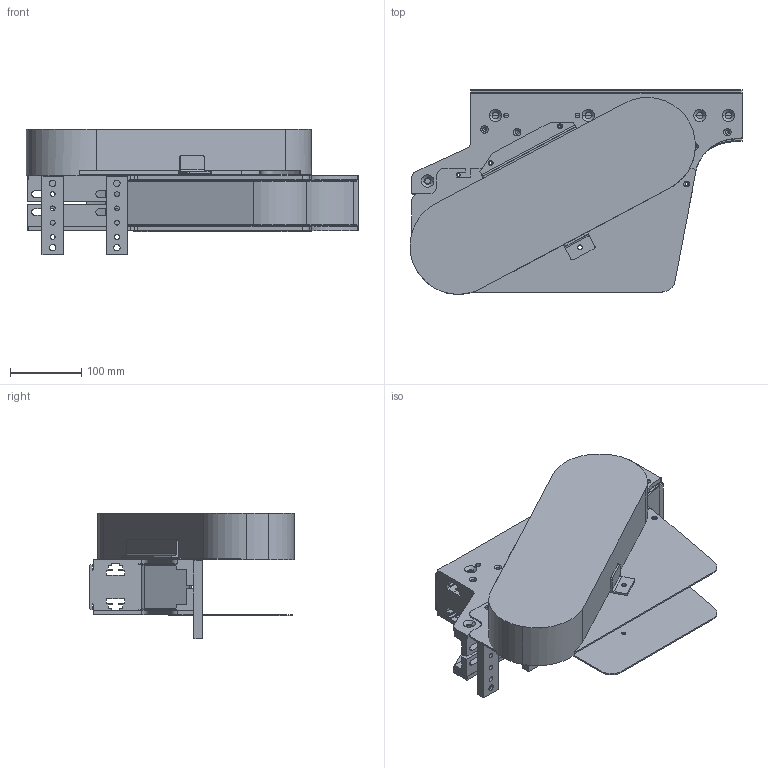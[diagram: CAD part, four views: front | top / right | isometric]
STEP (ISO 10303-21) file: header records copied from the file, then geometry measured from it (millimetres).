
FILE_DESCRIPTION (( 'STEP AP214' ), '1' );
FILE_NAME ('FSID SD 0R.step', '2017-04-07T11:09:40', ( '' ), ( '' ), 'SwSTEP 2.0', 'SolidWorks 2016', '' );
FILE_SCHEMA (( 'AUTOMOTIVE_DESIGN' ));
Length unit declared in the file: millimetre
Products named in the file (1): FSID SD 0R
Bounding box: 465.21 x 286.77 x 176 mm (x, y, z)
Volume: 3557663.2 mm3; surface area: 846740.3 mm2
Topology: 6 solids, 6 shells, 663 faces, 1761 edges, 1094 vertices
Faces by surface type: cylinder 314, plane 209, cone 128, torus 12
Entity records: 22671 total; most frequent: DIRECTION 3768, CARTESIAN_POINT 3530, ORIENTED_EDGE 3418, EDGE_CURVE 1709, AXIS2_PLACEMENT_3D 1398, VERTEX_POINT 1094, LINE 972, VECTOR 972
